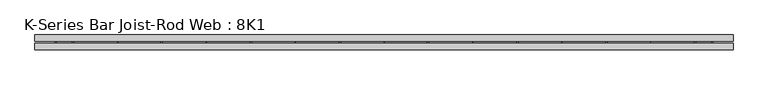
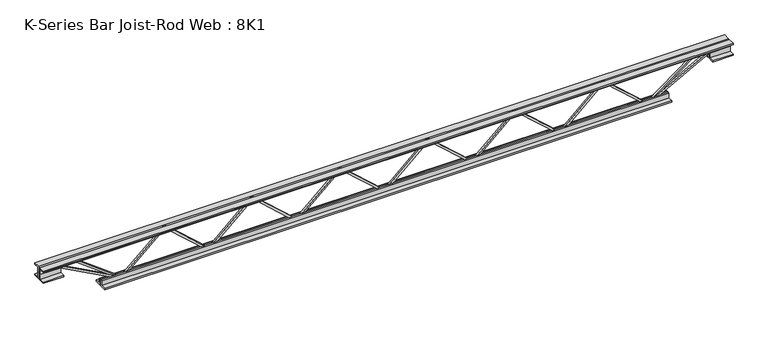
"""IFC4 building model written with IfcOpenShell, lengths in millimetres: beam geometry, K-Series Bar Joist-Rod Web : 8K1."""

from ifc_helpers import new_model, si_unit, frame, origin, place, context, project, spatial, polyline, outline, extrude, source, transform, mapped, element, save


def k_series_bar_joist_rod_web_8k1_cd9e0d93(model_context):
    return source(origin(), model_context, "Body", "SweptSolid", [
        extrude(outline(polyline([(-90.4875, 437.278907), (-100.0125, 437.278907), (-100.0125, 442.2774605), (90.4875, 654.566914), (90.4875, 657.269807), (-100.0125, 869.5592605), (-100.0125, 874.557814), (-90.4875, 874.557814), (-90.4875, 873.2063675), (100.0125, 660.916914), (100.0125, 650.919807), (-90.4875, 438.6303535), (-90.4875, 437.278907)])), frame((0.0, -4.7625, 0.0), z_axis=(0.0, 1.0, 0.0), x_axis=(0.0, 0.0, 1.0)), (0.0, 0.0, 1.0), 9.525),
        extrude(outline(polyline([(-90.4875, 0.0), (-100.0125, 0.0), (-100.0125, 4.9985535), (90.4875, 217.288007), (90.4875, 219.9909), (-100.0125, 432.2803535), (-100.0125, 437.278907), (-90.4875, 437.278907), (-90.4875, 435.9274605), (100.0125, 223.638007), (100.0125, 213.6409), (-90.4875, 1.3514465), (-90.4875, 0.0)])), frame((0.0, -4.7625, 0.0), z_axis=(0.0, 1.0, 0.0), x_axis=(0.0, 0.0, 1.0)), (0.0, 0.0, 1.0), 9.525),
        extrude(outline(polyline([(-90.4875, -437.278907), (-100.0125, -437.278907), (-100.0125, -432.2803535), (90.4875, -219.9909), (90.4875, -217.288007), (-100.0125, -4.9985535), (-100.0125, 0.0), (-90.4875, 0.0), (-90.4875, -1.3514465), (100.0125, -213.6409), (100.0125, -223.638007), (-90.4875, -435.9274605), (-90.4875, -437.278907)])), frame((0.0, -4.7625, 0.0), z_axis=(0.0, 1.0, 0.0), x_axis=(0.0, 0.0, 1.0)), (0.0, 0.0, 1.0), 9.525),
        extrude(outline(polyline([(-90.4875, -874.557814), (-100.0125, -874.557814), (-100.0125, -869.5592605), (90.4875, -657.269807), (90.4875, -654.566914), (-100.0125, -442.2774605), (-100.0125, -437.278907), (-90.4875, -437.278907), (-90.4875, -438.6303535), (100.0125, -650.919807), (100.0125, -660.916914), (-90.4875, -873.2063675), (-90.4875, -874.557814)])), frame((0.0, -4.7625, 0.0), z_axis=(0.0, 1.0, 0.0), x_axis=(0.0, 0.0, 1.0)), (0.0, 0.0, 1.0), 9.525),
        extrude(outline(polyline([(-90.4875, 874.557814), (-100.0125, 874.557814), (-100.0125, 879.5563675), (90.4875, 1091.845821), (90.4875, 1094.548714), (-100.0125, 1306.8381675), (-100.0125, 1311.836721), (-90.4875, 1311.836721), (-90.4875, 1310.4852745), (100.0125, 1098.195821), (100.0125, 1088.198714), (-90.4875, 875.9092605), (-90.4875, 874.557814)])), frame((0.0, -4.7625, 0.0), z_axis=(0.0, 1.0, 0.0), x_axis=(0.0, 0.0, 1.0)), (0.0, 0.0, 1.0), 9.525),
        extrude(outline(polyline([(-90.4875, -1311.836721), (-100.0125, -1311.836721), (-100.0125, -1306.8381675), (90.4875, -1094.548714), (90.4875, -1091.845821), (-100.0125, -879.5563675), (-100.0125, -874.557814), (-90.4875, -874.557814), (-90.4875, -875.9092605), (100.0125, -1088.198714), (100.0125, -1098.195821), (-90.4875, -1310.4852745), (-90.4875, -1311.836721)])), frame((0.0, -4.7625, 0.0), z_axis=(0.0, 1.0, 0.0), x_axis=(0.0, 0.0, 1.0)), (0.0, 0.0, 1.0), 9.525),
        extrude(outline(polyline([(4.7625, 101.6), (36.5125, 101.6), (36.5125, 95.25), (11.1125, 95.25), (11.1125, 69.85), (4.7625, 69.85), (4.7625, 101.6)])), frame((-1718.236721, 0.0, 0.0), z_axis=(1.0, 0.0, 0.0), x_axis=(0.0, 1.0, 0.0)), (0.0, 0.0, 1.0), 3436.473442),
        extrude(outline(polyline([(-4.7625, 101.6), (-4.7625, 69.85), (-11.1125, 69.85), (-11.1125, 95.25), (-36.5125, 95.25), (-36.5125, 101.6), (-4.7625, 101.6)])), frame((-1718.236721, 0.0, 0.0), z_axis=(1.0, 0.0, 0.0), x_axis=(0.0, 1.0, 0.0)), (0.0, 0.0, 1.0), 3436.473442),
        extrude(outline(polyline([(-4.7625, 38.1), (-36.5125, 38.1), (-36.5125, 44.45), (-11.1125, 44.45), (-11.1125, 69.85), (-4.7625, 69.85), (-4.7625, 38.1)])), frame((-1718.236721, 0.0, 0.0), z_axis=(1.0, 0.0, 0.0), x_axis=(0.0, 1.0, 0.0)), (0.0, 0.0, 1.0), 101.6),
        extrude(outline(polyline([(36.5125, 38.1), (4.7625, 38.1), (4.7625, 69.85), (11.1125, 69.85), (11.1125, 44.45), (36.5125, 44.45), (36.5125, 38.1)])), frame((-1718.236721, 0.0, 0.0), z_axis=(1.0, 0.0, 0.0), x_axis=(0.0, 1.0, 0.0)), (0.0, 0.0, 1.0), 101.6),
        extrude(outline(polyline([(4.7625, 38.1), (4.7625, 69.85), (11.1125, 69.85), (11.1125, 44.45), (36.5125, 44.45), (36.5125, 38.1), (4.7625, 38.1)])), frame((1616.636721, 0.0, 0.0), z_axis=(1.0, 0.0, 0.0), x_axis=(0.0, 1.0, 0.0)), (0.0, 0.0, 1.0), 101.6),
        extrude(outline(polyline([(-4.7625, 38.1), (-36.5125, 38.1), (-36.5125, 44.45), (-11.1125, 44.45), (-11.1125, 69.85), (-4.7625, 69.85), (-4.7625, 38.1)])), frame((1616.636721, 0.0, 0.0), z_axis=(1.0, 0.0, 0.0), x_axis=(0.0, 1.0, 0.0)), (0.0, 0.0, 1.0), 101.6),
        extrude(outline(polyline([(4.7625, -101.6), (4.7625, -69.85), (11.1125, -69.85), (11.1125, -95.25), (36.5125, -95.25), (36.5125, -101.6), (4.7625, -101.6)])), frame((-1413.436721, 0.0, 0.0), z_axis=(1.0, 0.0, 0.0), x_axis=(0.0, 1.0, 0.0)), (0.0, 0.0, 1.0), 2826.873442),
        extrude(outline(polyline([(-4.7625, -101.6), (-36.5125, -101.6), (-36.5125, -95.25), (-11.1125, -95.25), (-11.1125, -69.85), (-4.7625, -69.85), (-4.7625, -101.6)])), frame((-1413.436721, 0.0, 0.0), z_axis=(1.0, 0.0, 0.0), x_axis=(0.0, 1.0, 0.0)), (0.0, 0.0, 1.0), 2826.873442),
        extrude(outline(polyline([(0.0, -9.525), (0.0, 0.0), (346.6425392, 0.0), (346.6425392, -9.525), (0.0, -9.525)])), frame((-1618.9050195, 4.7625, 65.662372), z_axis=(0.47628314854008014, 0.0, 0.8792919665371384), x_axis=(0.8792919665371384, 0.0, -0.47628314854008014)), (0.0, 0.0, 1.0), 9.525),
        extrude(outline(polyline([(0.0, -9.525), (0.0, 0.0), (273.973029, 0.0), (273.973029, -9.525), (0.0, -9.525)])), frame((-1533.346124, 4.7625, 66.049369), z_axis=(0.6026140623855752, 0.0, 0.7980327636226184), x_axis=(0.7980327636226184, 0.0, -0.6026140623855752)), (0.0, 0.0, 1.0), 9.525),
        extrude(outline(polyline([(0.0, -9.525), (0.0, 0.0), (346.6425392, 0.0), (346.6425392, -9.525), (0.0, -9.525)])), frame((1618.9050195, -4.7625, 65.662372), z_axis=(-0.47628314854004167, 0.0, 0.8792919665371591), x_axis=(-0.8792919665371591, 0.0, -0.47628314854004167)), (0.0, 0.0, 1.0), 9.525),
        extrude(outline(polyline([(0.0, -9.525), (0.0, 0.0), (273.973029, 0.0), (273.973029, -9.525), (0.0, -9.525)])), frame((1533.346124, -4.7625, 66.049369), z_axis=(-0.602614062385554, 0.0, 0.7980327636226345), x_axis=(-0.7980327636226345, 0.0, -0.602614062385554)), (0.0, 0.0, 1.0), 9.525),
    ])


if __name__ == "__main__":
    model = new_model("IFC4")
    model_context = context("Model", 3, world=origin())
    ifc_project = project(units=[si_unit("LENGTHUNIT", "METRE", prefix="MILLI")], contexts=[model_context])
    site = spatial("IfcSite", under=ifc_project)
    building = spatial("IfcBuilding", under=site)
    placement = place(None, origin())
    k_series_bar_joist_rod_web_8k1_shape = k_series_bar_joist_rod_web_8k1_cd9e0d93(model_context)
    element("IfcBeam", 1, ObjectType="K-Series Bar Joist-Rod Web : 8K1", at=placement, inside=building, context=model_context, shape_type="MappedRepresentation", body=[
        mapped(k_series_bar_joist_rod_web_8k1_shape, transform((0.0, 0.0, 0.0), x_axis=(1.0, 0.0, 0.0), y_axis=(0.0, 1.0, 0.0), z_axis=(0.0, 0.0, 1.0))),
    ])
    save(model, "model.ifc")
